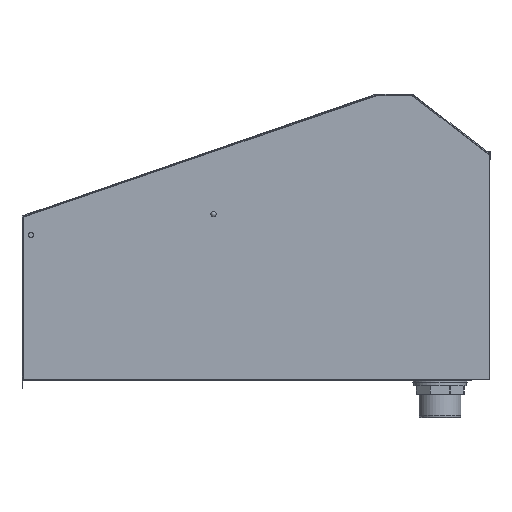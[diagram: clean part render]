
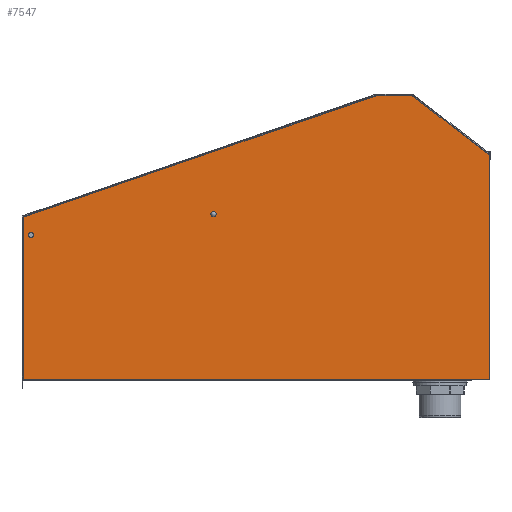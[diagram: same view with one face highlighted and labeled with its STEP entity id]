
A CAD part, left-side view. The second image highlights one B-rep face of the part: STEP entity #7547.
In plain terms, the highlighted planar face has unit normal (-1, 0, 0) as drawn and (0, 0, -1) by its records, which use the part's own axes.
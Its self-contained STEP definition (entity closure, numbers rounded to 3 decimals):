
#239=FACE_BOUND('',#1556,.T.);
#240=FACE_BOUND('',#1557,.T.);
#509=CIRCLE('',#8194,3.324);
#511=CIRCLE('',#8197,4.25);
#1035=FACE_OUTER_BOUND('',#1555,.T.);
#1555=EDGE_LOOP('',(#5783,#5784,#5785,#5786,#5787,#5788,#5789,#5790,#5791,
#5792));
#1556=EDGE_LOOP('',(#5793));
#1557=EDGE_LOOP('',(#5794));
#2222=LINE('',#12109,#2888);
#2239=LINE('',#12183,#2905);
#2255=LINE('',#12223,#2921);
#2266=LINE('',#12253,#2932);
#2283=LINE('',#12293,#2949);
#2286=LINE('',#12299,#2952);
#2291=LINE('',#12308,#2957);
#2295=LINE('',#12314,#2961);
#2296=LINE('',#12315,#2962);
#2297=LINE('',#12316,#2963);
#2888=VECTOR('',#9473,10.);
#2905=VECTOR('',#9510,10.);
#2921=VECTOR('',#9552,10.);
#2932=VECTOR('',#9587,10.);
#2949=VECTOR('',#9630,10.);
#2952=VECTOR('',#9635,10.);
#2957=VECTOR('',#9642,10.);
#2961=VECTOR('',#9650,10.);
#2962=VECTOR('',#9651,10.);
#2963=VECTOR('',#9652,10.);
#3487=VERTEX_POINT('',#12093);
#3489=VERTEX_POINT('',#12098);
#3493=VERTEX_POINT('',#12106);
#3494=VERTEX_POINT('',#12108);
#3506=VERTEX_POINT('',#12180);
#3507=VERTEX_POINT('',#12182);
#3517=VERTEX_POINT('',#12220);
#3518=VERTEX_POINT('',#12222);
#3525=VERTEX_POINT('',#12252);
#3535=VERTEX_POINT('',#12292);
#3537=VERTEX_POINT('',#12298);
#3540=VERTEX_POINT('',#12306);
#4251=EDGE_CURVE('',#3487,#3487,#509,.T.);
#4253=EDGE_CURVE('',#3489,#3489,#511,.T.);
#4257=EDGE_CURVE('',#3494,#3493,#2222,.T.);
#4278=EDGE_CURVE('',#3507,#3506,#2239,.T.);
#4298=EDGE_CURVE('',#3518,#3517,#2255,.T.);
#4313=EDGE_CURVE('',#3525,#3518,#2266,.T.);
#4333=EDGE_CURVE('',#3535,#3507,#2283,.T.);
#4336=EDGE_CURVE('',#3537,#3525,#2286,.T.);
#4341=EDGE_CURVE('',#3517,#3540,#2291,.T.);
#4345=EDGE_CURVE('',#3540,#3494,#2295,.T.);
#4346=EDGE_CURVE('',#3493,#3535,#2296,.T.);
#4347=EDGE_CURVE('',#3506,#3537,#2297,.T.);
#5783=ORIENTED_EDGE('',*,*,#4298,.T.);
#5784=ORIENTED_EDGE('',*,*,#4341,.T.);
#5785=ORIENTED_EDGE('',*,*,#4345,.T.);
#5786=ORIENTED_EDGE('',*,*,#4257,.T.);
#5787=ORIENTED_EDGE('',*,*,#4346,.T.);
#5788=ORIENTED_EDGE('',*,*,#4333,.T.);
#5789=ORIENTED_EDGE('',*,*,#4278,.T.);
#5790=ORIENTED_EDGE('',*,*,#4347,.T.);
#5791=ORIENTED_EDGE('',*,*,#4336,.T.);
#5792=ORIENTED_EDGE('',*,*,#4313,.T.);
#5793=ORIENTED_EDGE('',*,*,#4251,.T.);
#5794=ORIENTED_EDGE('',*,*,#4253,.T.);
#7186=PLANE('',#8252);
#7547=ADVANCED_FACE('',(#1035,#239,#240),#7186,.F.);
#8194=AXIS2_PLACEMENT_3D('',#12094,#9458,#9459);
#8197=AXIS2_PLACEMENT_3D('',#12099,#9464,#9465);
#8252=AXIS2_PLACEMENT_3D('',#12313,#9648,#9649);
#9458=DIRECTION('center_axis',(0.,0.,1.));
#9459=DIRECTION('ref_axis',(1.,0.,0.));
#9464=DIRECTION('center_axis',(0.,0.,1.));
#9465=DIRECTION('ref_axis',(1.,0.,0.));
#9473=DIRECTION('',(-0.613,0.79,0.));
#9510=DIRECTION('',(0.,1.,0.));
#9552=DIRECTION('',(1.,0.,0.));
#9587=DIRECTION('',(0.325,0.946,0.));
#9630=DIRECTION('',(0.,1.,0.));
#9635=DIRECTION('',(0.325,0.946,0.));
#9642=DIRECTION('',(0.,-1.,0.));
#9648=DIRECTION('center_axis',(0.,0.,1.));
#9649=DIRECTION('ref_axis',(1.,0.,0.));
#9650=DIRECTION('',(-1.,0.,0.));
#9651=DIRECTION('',(-0.613,0.79,0.));
#9652=DIRECTION('',(0.,1.,0.));
#12093=CARTESIAN_POINT('',(-383.324,1206.,0.));
#12094=CARTESIAN_POINT('Origin',(-380.,1206.,0.));
#12098=CARTESIAN_POINT('',(-439.25,726.,0.));
#12099=CARTESIAN_POINT('Origin',(-435.,726.,0.));
#12106=CARTESIAN_POINT('',(-745.772,201.074,0.));
#12108=CARTESIAN_POINT('',(-589.939,0.,0.));
#12109=CARTESIAN_POINT('',(-677.198,112.592,0.));
#12180=CARTESIAN_POINT('',(-746.,298.652,0.));
#12182=CARTESIAN_POINT('',(-746.,201.741,0.));
#12183=CARTESIAN_POINT('',(-746.,391.373,0.));
#12220=CARTESIAN_POINT('',(0.,1226.,0.));
#12222=CARTESIAN_POINT('',(-427.146,1226.,0.));
#12223=CARTESIAN_POINT('',(-366.,1226.,0.));
#12252=CARTESIAN_POINT('',(-745.779,299.974,0.));
#12253=CARTESIAN_POINT('',(-679.263,493.287,0.));
#12292=CARTESIAN_POINT('',(-746.,201.369,0.));
#12293=CARTESIAN_POINT('',(-746.,391.373,0.));
#12298=CARTESIAN_POINT('',(-746.,299.331,0.));
#12299=CARTESIAN_POINT('',(-679.263,493.287,0.));
#12306=CARTESIAN_POINT('',(0.,0.,0.));
#12308=CARTESIAN_POINT('',(0.,1230.,0.));
#12313=CARTESIAN_POINT('Origin',(-304.855,581.377,0.));
#12314=CARTESIAN_POINT('',(0.,0.,0.));
#12315=CARTESIAN_POINT('',(-677.198,112.592,0.));
#12316=CARTESIAN_POINT('',(-746.,391.373,0.));
